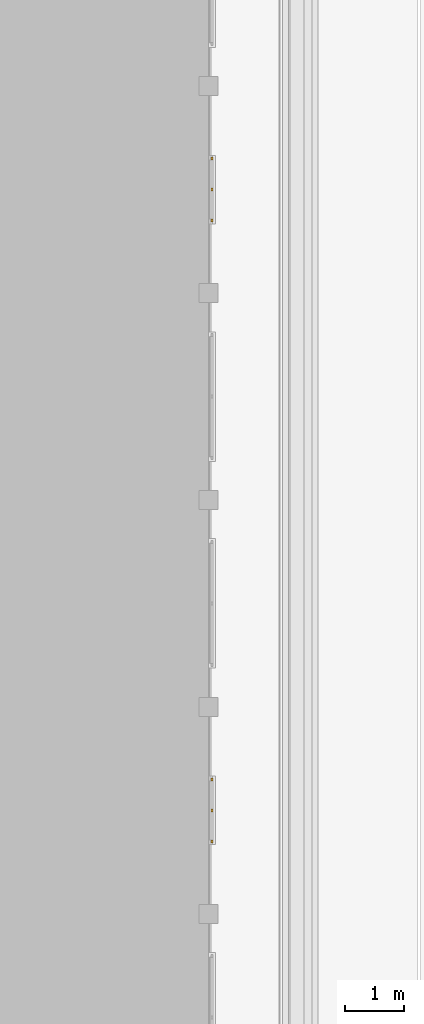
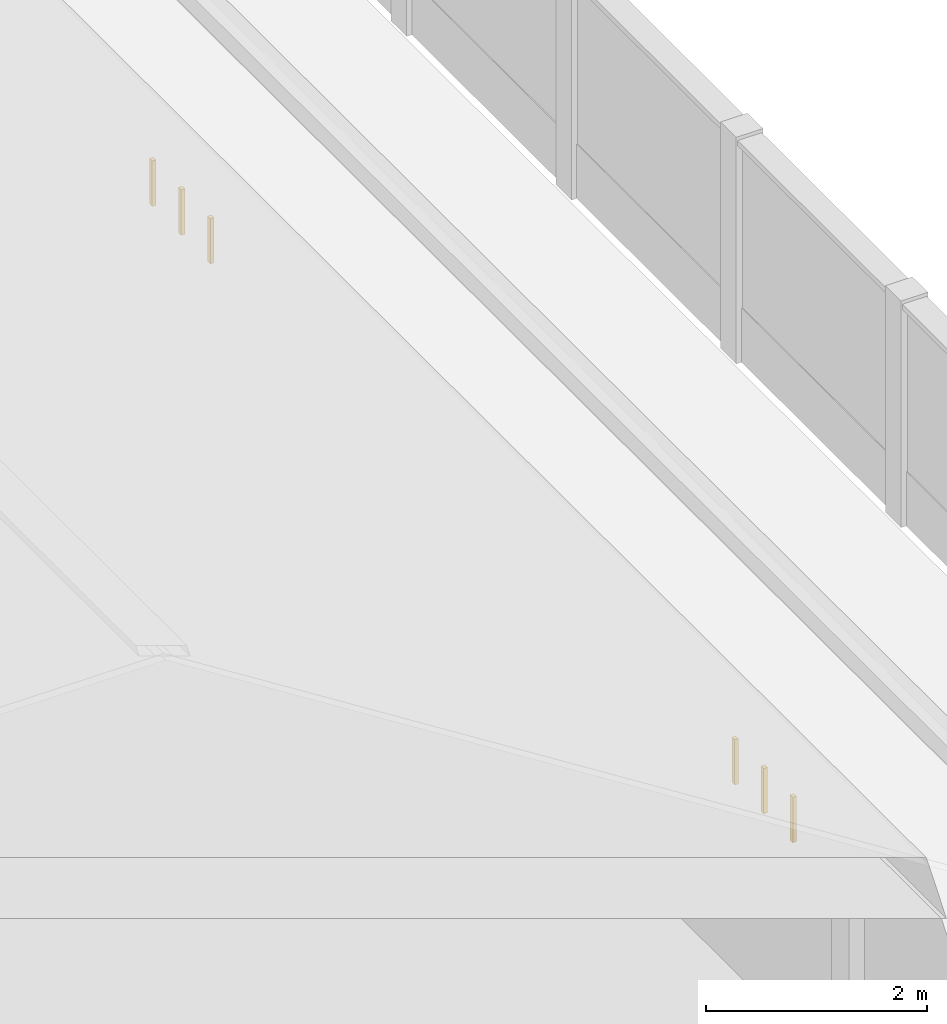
# One storey, part 92 of 177: 6 windows.
"""IFC4 building model written with IfcOpenShell, lengths in metres."""

from ifc_helpers import new_model, si_unit, origin, origin_with_axes, place, context, subcontext, project, spatial, triangles, element, save


model = new_model("IFC4")

# Units and contexts
model_context = context("Model", 3, precision=1e-05, world=origin_with_axes())
body_context = subcontext(model_context, "Body", "Model", "MODEL_VIEW")
ifc_project = project(units=[si_unit("LENGTHUNIT", "METRE"), si_unit("AREAUNIT", "SQUARE_METRE"), si_unit("VOLUMEUNIT", "CUBIC_METRE"), si_unit("PLANEANGLEUNIT", "RADIAN")], contexts=[model_context])

# Site, building, storey
site_placement = place(None, origin_with_axes())
site = spatial("IfcSite", under=ifc_project, at=site_placement, Name="Predio Los Mangos - Morales, San Martín", CompositionType="ELEMENT")
building_placement = place(site_placement, origin())
building = spatial("IfcBuilding", under=site, at=building_placement, Name="Hogar de Refugio Temporal", CompositionType="ELEMENT")
storey_placement = place(building_placement, origin())
storey = spatial("IfcBuildingStorey", under=building, at=storey_placement, Name="NIVEL 1 (NPT +0.00)", CompositionType="ELEMENT", Elevation=0.0)

# Windows
window_1_placement = place(storey_placement, origin())
element("IfcWindow", 1, at=window_1_placement, inside=storey, Name="E-07_vt1_m", ObjectType="Ventana", PredefinedType="WINDOW", context=body_context, shape_type="Tessellation", body=[
    triangles([(66.54, 97.415, 2.45), (66.58, 97.415, 2.45), (66.58, 97.465, 2.45), (66.54, 97.465, 2.45), (66.54, 97.415, 2.95), (66.58, 97.415, 2.95), (66.58, 97.465, 2.95), (66.54, 97.465, 2.95)], [[1, 4, 3], [1, 3, 2], [5, 6, 7], [5, 7, 8], [1, 2, 6], [1, 6, 5], [2, 3, 7], [2, 7, 6], [3, 4, 8], [3, 8, 7], [4, 1, 5], [4, 5, 8]]),
])
window_2_placement = place(storey_placement, origin())
element("IfcWindow", 2, at=window_2_placement, inside=storey, Name="E-07_vt1_m", ObjectType="Ventana", PredefinedType="WINDOW", context=body_context, shape_type="Tessellation", body=[
    triangles([(66.54, 98.465, 2.45), (66.58, 98.465, 2.45), (66.58, 98.515, 2.45), (66.54, 98.515, 2.45), (66.54, 98.465, 2.95), (66.58, 98.465, 2.95), (66.58, 98.515, 2.95), (66.54, 98.515, 2.95)], [[1, 4, 3], [1, 3, 2], [5, 6, 7], [5, 7, 8], [1, 2, 6], [1, 6, 5], [2, 3, 7], [2, 7, 6], [3, 4, 8], [3, 8, 7], [4, 1, 5], [4, 5, 8]]),
])
window_3_placement = place(storey_placement, origin())
element("IfcWindow", 3, at=window_3_placement, inside=storey, Name="E-07_vt1_m", ObjectType="Ventana", PredefinedType="WINDOW", context=body_context, shape_type="Tessellation", body=[
    triangles([(66.54, 97.94, 2.45), (66.58, 97.94, 2.45), (66.58, 97.99, 2.45), (66.54, 97.99, 2.45), (66.54, 97.94, 2.95), (66.58, 97.94, 2.95), (66.58, 97.99, 2.95), (66.54, 97.99, 2.95)], [[1, 4, 3], [1, 3, 2], [5, 6, 7], [5, 7, 8], [1, 2, 6], [1, 6, 5], [2, 3, 7], [2, 7, 6], [3, 4, 8], [3, 8, 7], [4, 1, 5], [4, 5, 8]]),
])
window_4_placement = place(storey_placement, origin())
element("IfcWindow", 4, at=window_4_placement, inside=storey, Name="E-07_vt4_m", ObjectType="Ventana", PredefinedType="WINDOW", context=body_context, shape_type="Tessellation", body=[
    triangles([(66.54, 107.945, 2.45), (66.58, 107.945, 2.45), (66.58, 107.995, 2.45), (66.54, 107.995, 2.45), (66.54, 107.945, 2.95), (66.58, 107.945, 2.95), (66.58, 107.995, 2.95), (66.54, 107.995, 2.95)], [[1, 4, 3], [1, 3, 2], [5, 6, 7], [5, 7, 8], [1, 2, 6], [1, 6, 5], [2, 3, 7], [2, 7, 6], [3, 4, 8], [3, 8, 7], [4, 1, 5], [4, 5, 8]]),
])
window_5_placement = place(storey_placement, origin())
element("IfcWindow", 5, at=window_5_placement, inside=storey, Name="E-07_vt4_m", ObjectType="Ventana", PredefinedType="WINDOW", context=body_context, shape_type="Tessellation", body=[
    triangles([(66.54, 108.995, 2.45), (66.58, 108.995, 2.45), (66.58, 109.045, 2.45), (66.54, 109.045, 2.45), (66.54, 108.995, 2.95), (66.58, 108.995, 2.95), (66.58, 109.045, 2.95), (66.54, 109.045, 2.95)], [[1, 4, 3], [1, 3, 2], [5, 6, 7], [5, 7, 8], [1, 2, 6], [1, 6, 5], [2, 3, 7], [2, 7, 6], [3, 4, 8], [3, 8, 7], [4, 1, 5], [4, 5, 8]]),
])
window_6_placement = place(storey_placement, origin())
element("IfcWindow", 6, at=window_6_placement, inside=storey, Name="E-07_vt4_m", ObjectType="Ventana", PredefinedType="WINDOW", context=body_context, shape_type="Tessellation", body=[
    triangles([(66.54, 108.47, 2.45), (66.58, 108.47, 2.45), (66.58, 108.52, 2.45), (66.54, 108.52, 2.45), (66.54, 108.47, 2.95), (66.58, 108.47, 2.95), (66.58, 108.52, 2.95), (66.54, 108.52, 2.95)], [[1, 4, 3], [1, 3, 2], [5, 6, 7], [5, 7, 8], [1, 2, 6], [1, 6, 5], [2, 3, 7], [2, 7, 6], [3, 4, 8], [3, 8, 7], [4, 1, 5], [4, 5, 8]]),
])

save(model, "model.ifc")
